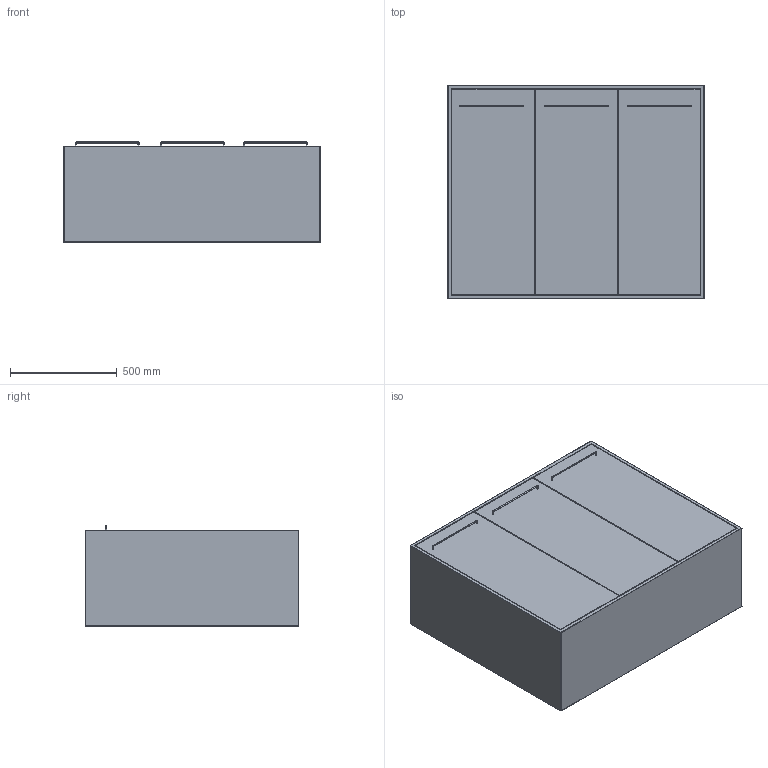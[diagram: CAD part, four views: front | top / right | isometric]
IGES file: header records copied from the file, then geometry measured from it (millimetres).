
Start section: SolidWorks IGES file using analytic representation for surfaces
Global section: file name: C:\Users\hcaixa\Documents\Gabinete Tecnico\72_produtos cliente\Timsteel\Mesas\Mesas Escritorio Operativas\Sistema Level Timsteel\AREIA-STUDIO FURNITURE CONCEPT\IGS\Armario Reciclagem.IGS; native system: SolidWorks 2014; preprocessor: SolidWorks 2014; author: hcaixa; date: 190703.132739; units: millimetre
Bounding box: 1200 x 1000 x 470 mm (x, y, z)
Surface area: 9255878.9 mm2 (no closed solid volume)
Topology: 0 solids, 0 shells, 166 faces, 1616 edges, 1608 vertices
Faces by surface type: bspline 86, revolution 80
